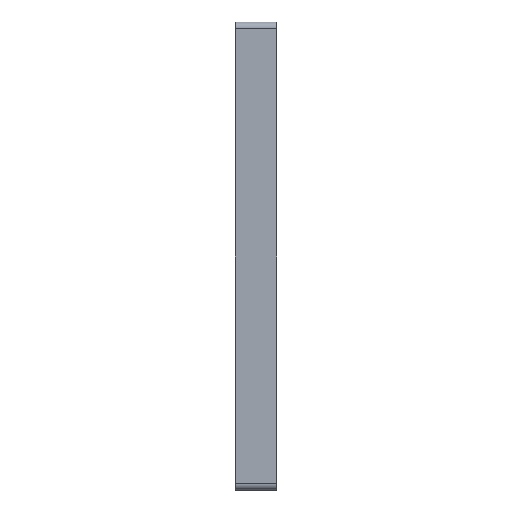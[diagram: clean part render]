
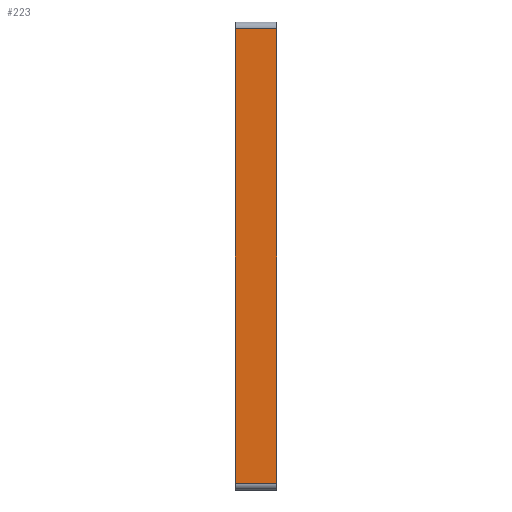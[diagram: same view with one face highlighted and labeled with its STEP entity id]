
A CAD part, left-side view. The second image highlights one B-rep face of the part: STEP entity #223.
In plain terms, the highlighted planar face has unit normal (-1, 0, 0).
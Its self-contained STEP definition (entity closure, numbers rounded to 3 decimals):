
#66 = EDGE_CURVE ( 'NONE', #231, #67, #756, .T. ) ;
#67 = VERTEX_POINT ( 'NONE', #752 ) ;
#68 = ORIENTED_EDGE ( 'NONE', *, *, #69, .T. ) ;
#69 = EDGE_CURVE ( 'NONE', #67, #228, #751, .T. ) ;
#223 = ADVANCED_FACE ( 'NONE', ( #1021 ), #1020, .F. ) ;
#224 = EDGE_LOOP ( 'NONE', ( #225, #229, #232, #68 ) ) ;
#225 = ORIENTED_EDGE ( 'NONE', *, *, #226, .F. ) ;
#226 = EDGE_CURVE ( 'NONE', #227, #228, #1018, .T. ) ;
#227 = VERTEX_POINT ( 'NONE', #1011 ) ;
#228 = VERTEX_POINT ( 'NONE', #1010 ) ;
#229 = ORIENTED_EDGE ( 'NONE', *, *, #230, .T. ) ;
#230 = EDGE_CURVE ( 'NONE', #227, #231, #979, .T. ) ;
#231 = VERTEX_POINT ( 'NONE', #975 ) ;
#232 = ORIENTED_EDGE ( 'NONE', *, *, #66, .T. ) ;
#748 = DIRECTION ( 'NONE',  ( 0., -1., 0. ) ) ;
#749 = VECTOR ( 'NONE', #748, 1000. ) ;
#750 = CARTESIAN_POINT ( 'NONE',  ( -1.419, -13.175, -33.619 ) ) ;
#751 = LINE ( 'NONE', #750, #749 ) ;
#752 = CARTESIAN_POINT ( 'NONE',  ( -1.419, -10., -33.619 ) ) ;
#753 = DIRECTION ( 'NONE',  ( 0., 0., -1. ) ) ;
#754 = VECTOR ( 'NONE', #753, 1000. ) ;
#755 = CARTESIAN_POINT ( 'NONE',  ( -1.419, -10., 1.419 ) ) ;
#756 = LINE ( 'NONE', #755, #754 ) ;
#975 = CARTESIAN_POINT ( 'NONE',  ( -1.419, -10., 0.919 ) ) ;
#976 = DIRECTION ( 'NONE',  ( 0., 1., 0. ) ) ;
#977 = VECTOR ( 'NONE', #976, 1000. ) ;
#978 = CARTESIAN_POINT ( 'NONE',  ( -1.419, -13.175, 0.919 ) ) ;
#979 = LINE ( 'NONE', #978, #977 ) ;
#1010 = CARTESIAN_POINT ( 'NONE',  ( -1.419, -13.175, -33.619 ) ) ;
#1011 = CARTESIAN_POINT ( 'NONE',  ( -1.419, -13.175, 0.919 ) ) ;
#1012 = DIRECTION ( 'NONE',  ( 0., 0., -1. ) ) ;
#1013 = VECTOR ( 'NONE', #1012, 1000. ) ;
#1014 = CARTESIAN_POINT ( 'NONE',  ( -1.419, -13.175, 1.419 ) ) ;
#1015 = DIRECTION ( 'NONE',  ( 0., 0., -1. ) ) ;
#1016 = DIRECTION ( 'NONE',  ( 1., 0., 0. ) ) ;
#1017 = CARTESIAN_POINT ( 'NONE',  ( -1.419, -13.175, 1.419 ) ) ;
#1018 = LINE ( 'NONE', #1014, #1013 ) ;
#1019 = AXIS2_PLACEMENT_3D ( 'NONE', #1017, #1016, #1015 ) ;
#1020 = PLANE ( 'NONE',  #1019 ) ;
#1021 = FACE_OUTER_BOUND ( 'NONE', #224, .T. ) ;
